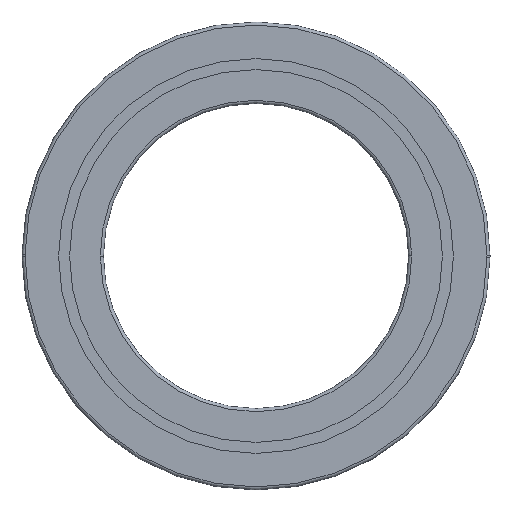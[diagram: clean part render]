
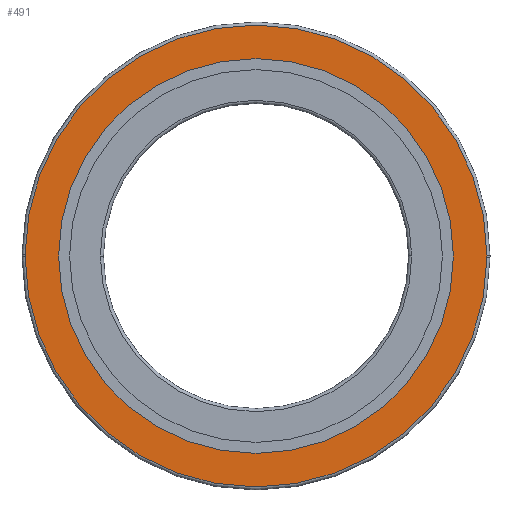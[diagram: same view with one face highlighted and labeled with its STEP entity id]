
A CAD part, front view. The second image highlights one B-rep face of the part: STEP entity #491.
In plain terms, the highlighted planar face has unit normal (0, -1, 0).
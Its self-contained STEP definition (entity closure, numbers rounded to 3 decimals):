
#345=EDGE_CURVE('',#355,#815,#889,.T.);
#355=VERTEX_POINT('',#901);
#399=EDGE_CURVE('',#583,#575,#951,.T.);
#403=EDGE_CURVE('',#593,#495,#955,.T.);
#491=ADVANCED_FACE('',(#1056,#1057),#1058,.F.);
#495=VERTEX_POINT('',#1062);
#513=EDGE_CURVE('',#575,#593,#1082,.T.);
#575=VERTEX_POINT('',#1150);
#583=VERTEX_POINT('',#1158);
#593=VERTEX_POINT('',#1168);
#629=EDGE_CURVE('',#495,#583,#1209,.T.);
#641=EDGE_CURVE('',#815,#355,#1221,.T.);
#815=VERTEX_POINT('',#1414);
#889=CIRCLE('',#1498,97.0);
#901=CARTESIAN_POINT('',(-97.0,0.0,0.0));
#951=CIRCLE('',#1574,113.5);
#955=CIRCLE('',#1581,113.5);
#1056=FACE_OUTER_BOUND('',#1695,.T.);
#1057=FACE_BOUND('',#1696,.T.);
#1058=PLANE('',#1697);
#1062=CARTESIAN_POINT('',(-113.498,0.0,0.704));
#1082=CIRCLE('',#1727,113.5);
#1150=CARTESIAN_POINT('',(113.498,0.0,-0.704));
#1158=CARTESIAN_POINT('',(-113.5,0.0,0.));
#1168=CARTESIAN_POINT('',(113.5,0.0,0.0));
#1209=CIRCLE('',#1885,113.5);
#1221=CIRCLE('',#1901,97.0);
#1414=CARTESIAN_POINT('',(97.0,0.0,0.));
#1498=AXIS2_PLACEMENT_3D('',#2216,#2217,#2218);
#1574=AXIS2_PLACEMENT_3D('',#2294,#2295,#2296);
#1581=AXIS2_PLACEMENT_3D('',#2298,#2299,#2300);
#1695=EDGE_LOOP('',(#2431,#2432,#2433,#2434));
#1696=EDGE_LOOP('',(#2435,#2436));
#1697=AXIS2_PLACEMENT_3D('',#2437,#2438,#2439);
#1727=AXIS2_PLACEMENT_3D('',#2475,#2476,#2477);
#1885=AXIS2_PLACEMENT_3D('',#2632,#2633,#2634);
#1901=AXIS2_PLACEMENT_3D('',#2644,#2645,#2646);
#2216=CARTESIAN_POINT('',(0.0,0.0,0.0));
#2217=DIRECTION('',(0.0,-1.0,0.0));
#2218=DIRECTION('',(-1.0,0.0,0.0));
#2294=CARTESIAN_POINT('',(0.0,0.0,0.0));
#2295=DIRECTION('',(0.0,-1.0,0.0));
#2296=DIRECTION('',(-1.0,0.0,0.0));
#2298=CARTESIAN_POINT('',(0.0,0.0,0.0));
#2299=DIRECTION('',(0.0,-1.0,0.0));
#2300=DIRECTION('',(1.0,0.0,0.0));
#2431=ORIENTED_EDGE('',*,*,#403,.T.);
#2432=ORIENTED_EDGE('',*,*,#629,.T.);
#2433=ORIENTED_EDGE('',*,*,#399,.T.);
#2434=ORIENTED_EDGE('',*,*,#513,.T.);
#2435=ORIENTED_EDGE('',*,*,#345,.F.);
#2436=ORIENTED_EDGE('',*,*,#641,.F.);
#2437=CARTESIAN_POINT('',(0.0,0.0,0.0));
#2438=DIRECTION('',(0.0,1.0,0.0));
#2439=DIRECTION('',(1.0,0.0,-0.0));
#2475=CARTESIAN_POINT('',(0.0,0.0,0.0));
#2476=DIRECTION('',(0.0,-1.0,0.0));
#2477=DIRECTION('',(-1.0,0.0,0.0));
#2632=CARTESIAN_POINT('',(0.0,0.0,0.0));
#2633=DIRECTION('',(0.0,-1.0,0.0));
#2634=DIRECTION('',(1.0,0.0,0.0));
#2644=CARTESIAN_POINT('',(0.0,0.0,0.0));
#2645=DIRECTION('',(0.0,-1.0,0.0));
#2646=DIRECTION('',(1.0,0.0,0.0));
